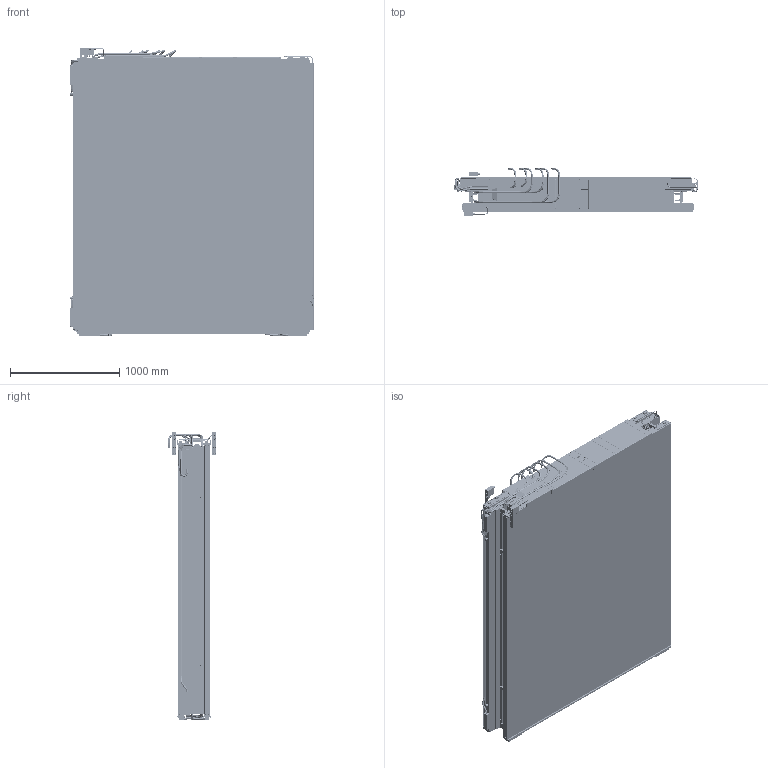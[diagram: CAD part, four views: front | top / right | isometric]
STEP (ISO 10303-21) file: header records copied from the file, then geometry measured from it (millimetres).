
FILE_DESCRIPTION(/* description */ (''),/* implementation_level */ '2;1');
FILE_NAME(/* name */ '030930_mb1_2_1_4_th_phi_L_carters.stp',/* time_stamp */ '2022-04-14T11:16:15+02:00',/* author */ (''),/* organization */ (''),/* preprocessor_version */ 'ST-DEVELOPER v18.1',/* originating_system */ 'SIEMENS PLM Software NX 1992',/* authorisation */ '');
FILE_SCHEMA (('AUTOMOTIVE_DESIGN { 1 0 10303 214 3 1 1 1 }'));
Products named in the file (1): zago349C2021biz9
Bounding box: 2232.82 x 442.79 x 2646.12 mm (x, y, z)
Volume: 650420795.6 mm3; surface area: 124083502.3 mm2
Topology: 335 solids, 335 shells, 14700 faces, 38041 edges, 24046 vertices
Faces by surface type: plane 8917, cylinder 4701, cone 791, bspline 150, torus 98, sphere 43
Full cylindrical faces by diameter (mm): 1 x191, 1.675 x12, 2.459 x3, 2.594 x54, 3 x78, 3.2 x12, 3.25 x4, 3.3 x36, 3.432 x439, 3.5 x53, 3.778 x7, 4 x39, 4.5 x1, 4.8 x32, 5 x90, 5.188 x40, 5.5 x274, 6 x39, 6.4 x32, 6.5 x18, 7 x3, 7.188 x4, 7.5 x72, 8 x63, 8.6 x6, 8.782 x28, 8.8 x20, 8.933 x24, 8.985 x24, 9.391 x48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
Entity records: 462234 total; most frequent: CARTESIAN_POINT 115339, ORIENTED_EDGE 67176, DIRECTION 65368, EDGE_CURVE 33588, AXIS2_PLACEMENT_3D 24131, VERTEX_POINT 22790, EDGE_LOOP 20426, LINE 17106
